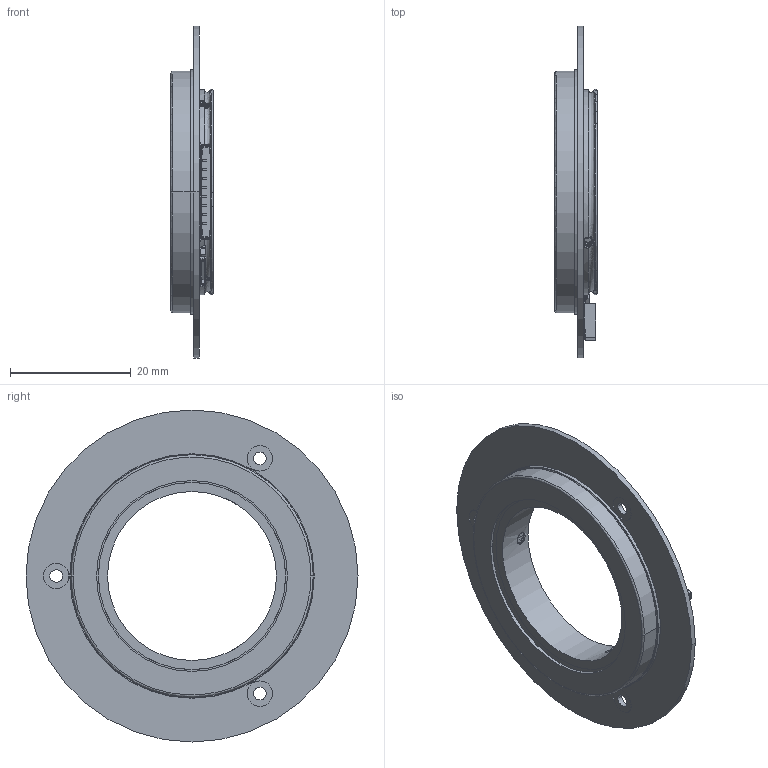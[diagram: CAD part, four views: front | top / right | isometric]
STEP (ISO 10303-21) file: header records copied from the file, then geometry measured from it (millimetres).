
FILE_DESCRIPTION (( 'STEP AP214' ), '1' );
FILE_NAME ('MBS-28-55¸üÐÂ.STEP', '2024-07-16T02:02:26', ( '' ), ( '' ), 'SwSTEP 2.0', 'SolidWorks 2016', '' );
FILE_SCHEMA (( 'AUTOMOTIVE_DESIGN' ));
Length unit declared in the file: millimetre
Products named in the file (1): MBS-28-55載陔
Bounding box: 7 x 55 x 55 mm (x, y, z)
Surface area: 8307.7 mm2 (no closed solid volume)
Topology: 0 solids, 27 shells, 1367 faces, 3730 edges, 2434 vertices
Faces by surface type: plane 885, bspline 331, cylinder 139, cone 12
Full cylindrical faces by diameter (mm): 28 x1
Entity records: 93362 total; most frequent: CARTESIAN_POINT 55003, ORIENTED_EDGE 7390, DIRECTION 5361, EDGE_CURVE 3704, VECTOR 2685, LINE 2685, VERTEX_POINT 2431, EDGE_LOOP 1457
